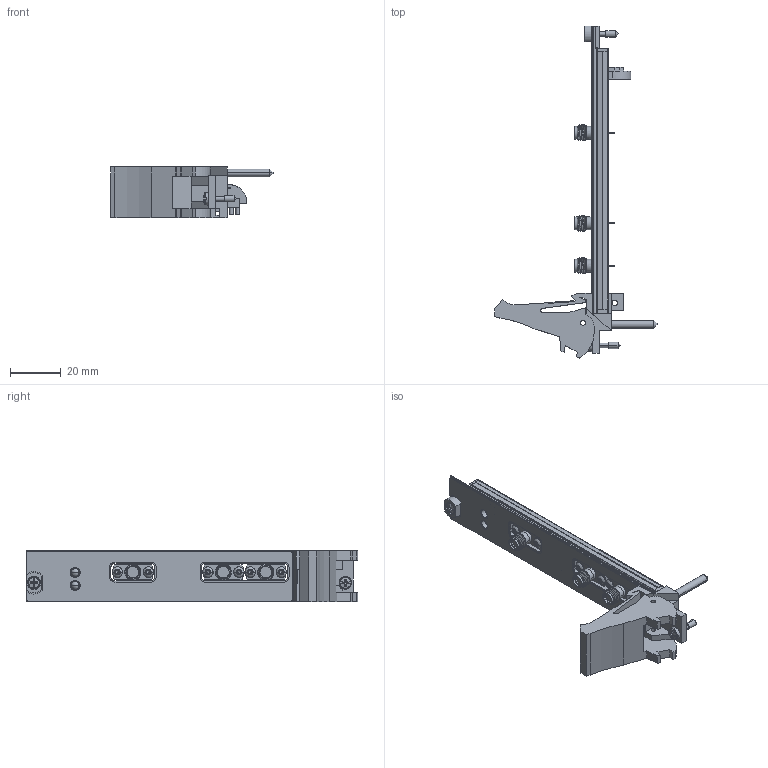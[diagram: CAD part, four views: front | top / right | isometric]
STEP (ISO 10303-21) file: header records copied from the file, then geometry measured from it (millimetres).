
FILE_DESCRIPTION((''),'2;1');
FILE_NAME('CD_PXIE-565X','2016-02-29T',('jjorden'),(''),'PRO/ENGINEER BY PARAMETRIC TECHNOLOGY CORPORATION, 2015280','PRO/ENGINEER BY PARAMETRIC TECHNOLOGY CORPORATION, 2015280','');
FILE_SCHEMA(('CONFIG_CONTROL_DESIGN'));
Length unit declared in the file: inch
Products named in the file (1): CD_PXIE-565X
Bounding box: 63.73 x 130.5 x 20.29 mm (x, y, z)
Volume: 15872.4 mm3; surface area: 17335.9 mm2
Topology: 6 solids, 6 shells, 957 faces, 2574 edges, 1662 vertices
Faces by surface type: cylinder 357, plane 329, bspline 153, cone 58, torus 28, sphere 20, extrusion 12
Entity records: 67035 total; most frequent: CARTESIAN_POINT 44659, ORIENTED_EDGE 5108, DIRECTION 3902, EDGE_CURVE 2554, VERTEX_POINT 1662, AXIS2_PLACEMENT_3D 1362, VECTOR 1178, LINE 1166
